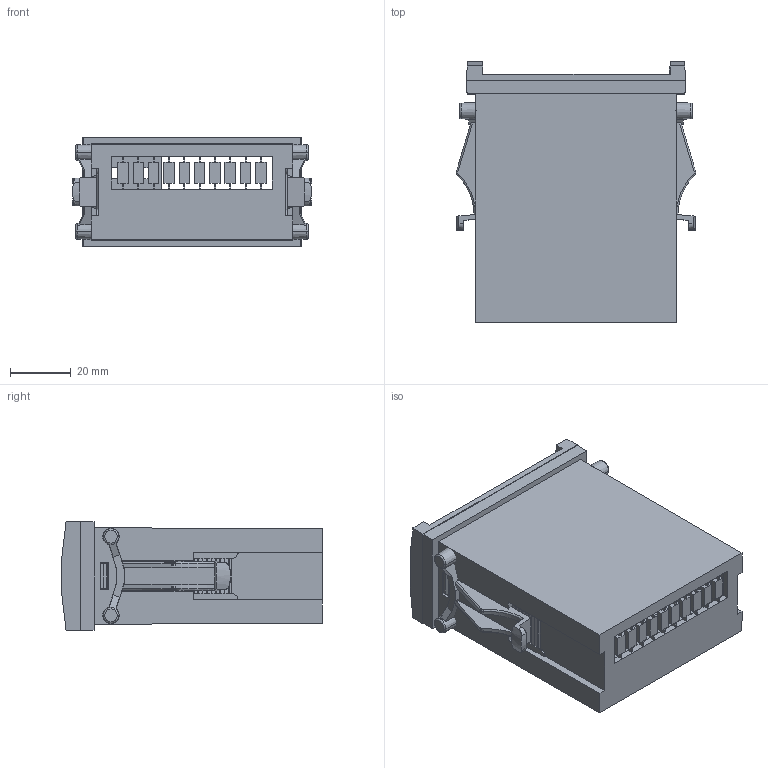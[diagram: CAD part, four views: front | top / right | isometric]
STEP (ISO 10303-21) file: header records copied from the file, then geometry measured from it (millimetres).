
FILE_DESCRIPTION (( 'STEP AP203' ), '1' );
FILE_NAME ('PPT125.STEP', '2020-06-17T05:14:16', ( '' ), ( '' ), 'SwSTEP 2.0', 'SolidWorks 2020', '' );
FILE_SCHEMA (( 'CONFIG_CONTROL_DESIGN' ));
Length unit declared in the file: millimetre
Products named in the file (6): PPT125
Assembly tree (5 placements, depth 2):
  PPT125
    PPT125
    PPT125
    PPT125
    PPT125
    PPT125
Bounding box: 78.81 x 85.82 x 36.2 mm (x, y, z)
Volume: 45003.1 mm3; surface area: 51903.3 mm2
Topology: 7 solids, 9 shells, 623 faces, 1724 edges, 1130 vertices
Faces by surface type: plane 495, cylinder 50, bspline 46, cone 24, torus 8
Entity records: 20698 total; most frequent: CARTESIAN_POINT 4473, ORIENTED_EDGE 3448, DIRECTION 2918, EDGE_CURVE 1724, LINE 1440, VECTOR 1440, VERTEX_POINT 1130, AXIS2_PLACEMENT_3D 739
